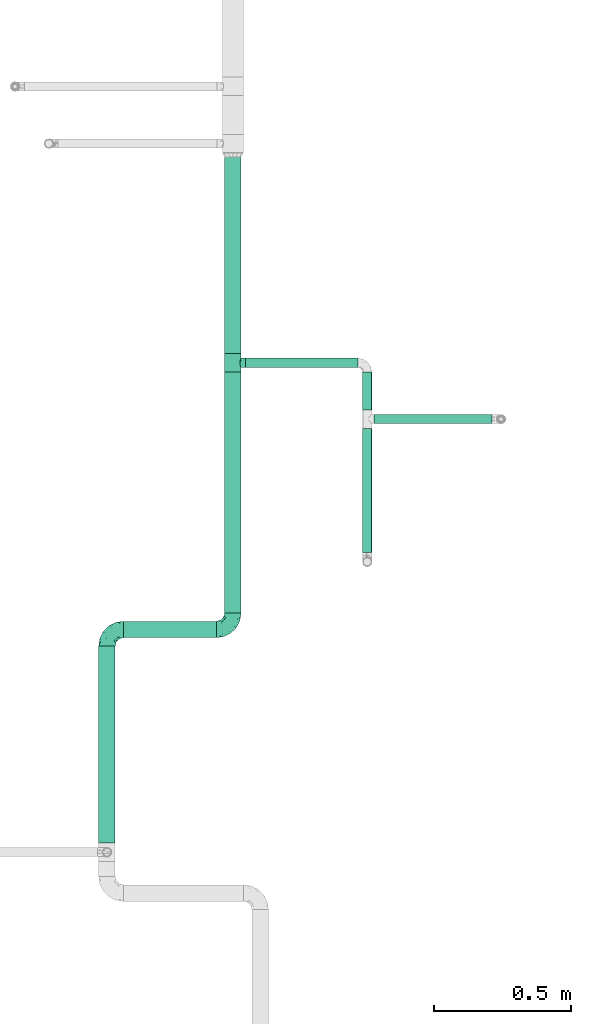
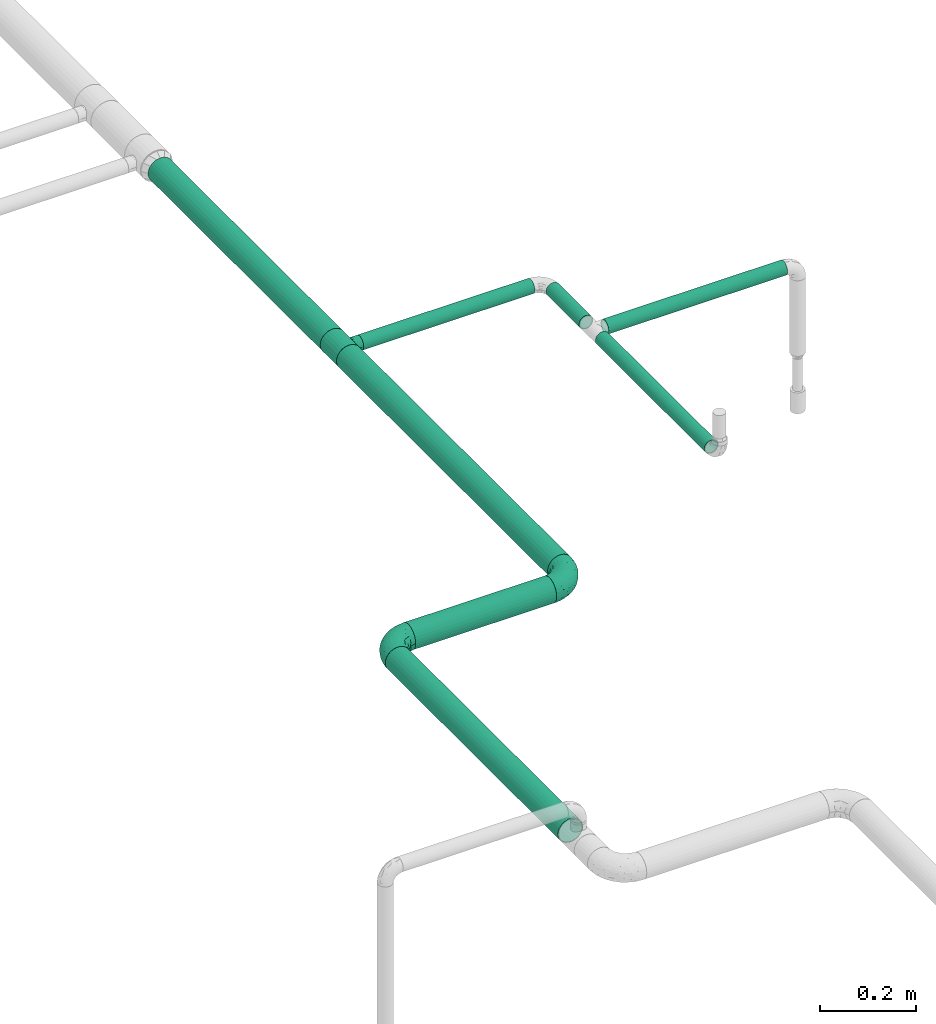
# One storey, part 6 of 43: 8 flow segments, 3 flow fittings.
"""IFC2X3 building model written with IfcOpenShell, lengths in millimetres."""

from ifc_helpers import new_model, entity, si_unit, converted_unit, derived_unit, direction, frame, origin_with_axes, origin_2d_with_axis, place, context, subcontext, project, spatial, hollow_circle, extrude, open_shell, surface_model, source, transform, mapped, type_object, element, save


model = new_model("IFC2X3")

# Units and contexts
model_context = context("Model", 3, precision=0.01, world=frame((0.0, 4.29681676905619e-09, 0.0)), true_north=direction((4.01073788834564e-13, 1.0)))
plan_context = context("Plan", 3, precision=0.01, world=frame((0.0, 4.29681676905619e-09, 0.0)), true_north=direction((4.01073788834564e-13, 1.0)))
body_context = subcontext(model_context, "Body", "Model", "MODEL_VIEW")
ifc_project = project(units=[converted_unit("PLANEANGLEUNIT", "DEGREE", entity("IfcPositiveLengthMeasure", 0.0174532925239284), si_unit("PLANEANGLEUNIT", "RADIAN"), dimensions=[0, 0, 0, 0, 0, 0, 0]), si_unit("AREAUNIT", "SQUARE_METRE"), si_unit("LENGTHUNIT", "METRE", prefix="MILLI"), si_unit("MASSUNIT", "GRAM", prefix="KILO"), si_unit("POWERUNIT", "WATT"), si_unit("PRESSUREUNIT", "PASCAL"), si_unit("FORCEUNIT", "NEWTON", prefix="KILO"), si_unit("ELECTRICVOLTAGEUNIT", "VOLT"), si_unit("ELECTRICCURRENTUNIT", "AMPERE"), si_unit("THERMODYNAMICTEMPERATUREUNIT", "DEGREE_CELSIUS"), si_unit("TIMEUNIT", "SECOND"), si_unit("VOLUMEUNIT", "CUBIC_METRE"), derived_unit("LINEARVELOCITYUNIT", [(si_unit("LENGTHUNIT", "METRE"), 1), (si_unit("TIMEUNIT", "SECOND"), -1)]), derived_unit("VOLUMETRICFLOWRATEUNIT", [(si_unit("VOLUMEUNIT", "CUBIC_METRE"), 1), (si_unit("TIMEUNIT", "SECOND"), -1)]), derived_unit("THERMALTRANSMITTANCEUNIT", [(si_unit("POWERUNIT", "WATT"), 1), (si_unit("THERMODYNAMICTEMPERATUREUNIT", "KELVIN"), -1), (si_unit("AREAUNIT", "SQUARE_METRE"), -1)]), derived_unit("SOUNDPRESSUREUNIT", [(si_unit("PRESSUREUNIT", "PASCAL"), 1)])], contexts=[model_context, plan_context])

# Site, building, storey
site_placement = place(None, frame((0.0, -4.29681676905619e-09, 0.0), z_axis=(0.0, 0.0, 1.0), x_axis=(1.0, 0.0, 0.0)))
site = spatial("IfcSite", under=ifc_project, at=site_placement, CompositionType="ELEMENT")
building_placement = place(site_placement, frame((0.0, 4.29681676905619e-09, 0.0), z_axis=(0.0, 0.0, 1.0), x_axis=(1.0, 0.0, 0.0)))
building = spatial("IfcBuilding", under=site, at=building_placement, Name="mc-building", CompositionType="ELEMENT")
storey_placement = place(building_placement, frame((0.0, 0.0, 210900.0), z_axis=(0.0, 0.0, 1.0), x_axis=(1.0, 0.0, 0.0)))
storey = spatial("IfcBuildingStorey", under=building, at=storey_placement, Name="Nivå F", CompositionType="ELEMENT", Elevation=210900.0)

# Flow fittings
pipe_fitting_type_1 = type_object("IfcPipeFittingType", Name="magi_pipe_fe_tee_centric_90_NOR", PredefinedType="JUNCTION")
shared_shape_1 = source(origin_with_axes(), body_context, "Body", "SurfaceModel", [
    surface_model("IfcShellBasedSurfaceModel", [(-33.8, 15.1, -26.15397), (-33.8, 7.81634, -29.17096), (-33.8, 0.0, -30.2), (-33.8, 29.17096, -7.81634), (-33.8, 26.15397, -15.1), (-33.8, 21.35462, -21.35462), (-33.8, 30.2, 0.0), (-33.8, -30.2, 0.0), (-33.8, -15.1, -26.15397), (-33.8, -21.35462, -21.35462), (-33.8, -7.81634, -29.17096), (-33.8, -26.15397, -15.1), (-33.8, -29.17096, -7.81634), (-33.8, 26.15397, 15.1), (-33.8, 29.17096, 7.81634), (-33.8, 15.1, 26.15397), (-33.8, -21.35462, 21.35462), (-33.8, 21.35462, 21.35462), (-33.8, 7.81634, 29.17096), (-33.8, -29.17096, 7.81634), (-33.8, -26.15397, 15.1), (-33.8, -7.81634, 29.17096), (-33.8, 0.0, 30.2), (-33.8, -15.1, 26.15397), (33.8, 29.17096, -7.81634), (33.8, 0.0, -30.2), (33.8, 7.81634, -29.17096), (33.8, 21.35462, -21.35462), (33.8, 15.1, -26.15397), (33.8, 26.15397, -15.1), (33.8, -30.2, 0.0), (33.8, -7.81634, -29.17096), (33.8, -21.35462, -21.35462), (33.8, -15.1, -26.15397), (33.8, -29.17096, -7.81634), (33.8, -26.15397, -15.1), (33.8, 30.2, 0.0), (33.8, 29.17096, 7.81634), (33.8, 26.15397, 15.1), (33.8, -29.17096, 7.81634), (33.8, 15.1, 26.15397), (33.8, 7.81634, 29.17096), (33.8, 21.35462, 21.35462), (33.8, -21.35462, 21.35462), (33.8, -26.15397, 15.1), (33.8, -15.1, 26.15397), (33.8, 0.0, 30.2), (33.8, -7.81634, 29.17096), (33.8, -29.68548, 3.90817), (15.846, -29.62306, 5.87488), (16.373, -29.91153, 2.93744), (12.91037, -28.16217, 10.90561), (2.99213, -25.2068, 16.63301), (16.9, -30.2, 0.0), (33.8, -27.66246, 11.45817), (8.50854, -26.43531, 14.60187), (-8.51006, -26.43579, 14.60099), (-33.8, -27.66246, 11.45817), (-12.91447, -28.16405, 10.90075), (-15.84655, -29.62335, 5.87341), (-33.8, -29.68548, 3.90817), (-16.37327, -29.91168, 2.93671), (-16.9, -30.2, 0.0), (-2.99705, -25.20739, 16.63213), (2.99213, -25.2068, -16.63301), (-16.37327, -29.91168, -2.93671), (8.50854, -26.43531, -14.60187), (33.8, -27.66246, -11.45817), (16.373, -29.91153, -2.93744), (-33.8, -29.68548, -3.90817), (-15.84655, -29.62335, -5.87341), (15.846, -29.62306, -5.87488), (12.91037, -28.16217, -10.90561), (33.8, -29.68548, -3.90817), (-2.99705, -25.20739, -16.63213), (-8.51006, -26.43579, -14.60099), (-12.91447, -28.16405, -10.90075), (-33.8, -27.66246, -11.45817), (4.37404, -45.3, -16.32415), (-16.9, -45.3, 0.0), (0.0, -45.3, -16.9), (14.63583, -45.3, -8.45), (8.45, -45.3, -14.63583), (16.32415, -45.3, -4.37404), (11.9501, -45.3, -11.9501), (-11.9501, -45.3, -11.9501), (-8.45, -45.3, -14.63583), (-4.37404, -45.3, -16.32415), (-14.63583, -45.3, -8.45), (-16.32415, -45.3, -4.37404), (16.9, -45.3, 0.0), (8.45, -45.3, 14.63583), (16.32415, -45.3, 4.37404), (14.63583, -45.3, 8.45), (-8.45, -45.3, 14.63583), (11.9501, -45.3, 11.9501), (4.37404, -45.3, 16.32415), (-16.32415, -45.3, 4.37404), (-11.9501, -45.3, 11.9501), (-14.63583, -45.3, 8.45), (0.0, -45.3, 16.9), (-4.37404, -45.3, 16.32415), (-5.75355, -25.82159, 15.61656), (-0.00246, -25.20709, 16.63257), (5.75034, -25.82105, 15.61744), (5.75034, -25.82105, -15.61744), (-0.00246, -25.20709, -16.63257), (-5.75355, -25.82159, -15.61656)], [open_shell([[[0, 1, 2]], [[3, 0, 2]], [[0, 3, 4]], [[5, 0, 4]], [[6, 2, 7]], [[8, 9, 10]], [[9, 2, 10]], [[11, 12, 9]], [[7, 9, 12]], [[9, 7, 2]], [[6, 3, 2]], [[13, 14, 6]], [[7, 15, 13]], [[7, 16, 15]], [[17, 13, 15]], [[18, 15, 16]], [[19, 20, 7]], [[7, 20, 16]], [[21, 22, 23]], [[16, 23, 22]], [[16, 22, 18]], [[7, 13, 6]], [[24, 25, 26]], [[27, 26, 28]], [[29, 24, 26]], [[29, 26, 27]], [[25, 24, 30]], [[31, 32, 33]], [[32, 31, 34]], [[32, 34, 35]], [[34, 31, 30]], [[31, 25, 30]], [[24, 36, 30]], [[36, 37, 38]], [[39, 36, 38]], [[40, 41, 38]], [[40, 38, 42]], [[43, 38, 41]], [[39, 43, 44]], [[39, 38, 43]], [[45, 46, 47]], [[46, 45, 43]], [[41, 46, 43]], [[36, 39, 30]], [[48, 39, 49]], [[30, 48, 50]], [[39, 51, 49]], [[44, 43, 52]], [[30, 50, 53]], [[51, 54, 55]], [[52, 55, 44]], [[48, 49, 50]], [[43, 16, 52]], [[55, 54, 44]], [[56, 57, 58]], [[59, 60, 61]], [[62, 61, 7]], [[59, 58, 19]], [[56, 63, 20]], [[51, 39, 54]], [[20, 57, 56]], [[20, 63, 16]], [[58, 57, 19]], [[63, 52, 16]], [[7, 61, 60]], [[59, 19, 60]], [[43, 23, 16]], [[22, 47, 46]], [[21, 45, 47]], [[18, 46, 41]], [[38, 37, 14]], [[17, 40, 42]], [[13, 42, 38]], [[41, 40, 15]], [[6, 37, 36]], [[23, 45, 21]], [[21, 47, 22]], [[18, 22, 46]], [[41, 15, 18]], [[15, 40, 17]], [[13, 17, 42]], [[14, 13, 38]], [[37, 6, 14]], [[45, 23, 43]], [[4, 24, 29]], [[3, 36, 24]], [[5, 29, 27]], [[25, 31, 10]], [[1, 28, 26]], [[2, 26, 25]], [[27, 28, 0]], [[8, 31, 33]], [[6, 36, 3]], [[3, 24, 4]], [[5, 4, 29]], [[27, 0, 5]], [[0, 28, 1]], [[2, 1, 26]], [[10, 2, 25]], [[31, 8, 10]], [[33, 9, 8]], [[32, 35, 64]], [[7, 65, 62]], [[66, 64, 35]], [[67, 66, 35]], [[32, 64, 9]], [[53, 68, 30]], [[69, 70, 65]], [[71, 72, 34]], [[71, 73, 68]], [[66, 67, 72]], [[34, 72, 67]], [[74, 75, 11]], [[76, 12, 77]], [[11, 9, 74]], [[76, 77, 75]], [[74, 9, 64]], [[76, 70, 12]], [[71, 34, 73]], [[70, 69, 12]], [[65, 7, 69]], [[30, 68, 73]], [[77, 11, 75]], [[32, 9, 33]], [[78, 79, 80]], [[81, 78, 82]], [[81, 83, 78]], [[81, 82, 84]], [[79, 78, 83]], [[80, 85, 86]], [[86, 87, 80]], [[88, 79, 89]], [[85, 80, 88]], [[79, 88, 80]], [[83, 90, 79]], [[91, 90, 92]], [[91, 92, 93]], [[94, 79, 91]], [[91, 93, 95]], [[94, 91, 96]], [[97, 98, 99]], [[98, 97, 94]], [[94, 100, 101]], [[97, 79, 94]], [[96, 100, 94]], [[91, 79, 90]], [[97, 61, 79]], [[58, 99, 98]], [[97, 99, 59]], [[98, 94, 56]], [[61, 62, 79]], [[59, 99, 58]], [[101, 63, 102]], [[56, 58, 98]], [[100, 52, 103]], [[91, 104, 96]], [[100, 96, 52]], [[50, 49, 92]], [[50, 90, 53]], [[104, 91, 55]], [[102, 94, 101]], [[102, 56, 94]], [[100, 63, 101]], [[97, 59, 61]], [[55, 91, 95]], [[95, 51, 55]], [[52, 96, 104]], [[92, 49, 93]], [[90, 50, 92]], [[93, 49, 51]], [[93, 51, 95]], [[103, 63, 100]], [[83, 68, 90]], [[72, 81, 84]], [[83, 81, 71]], [[84, 82, 66]], [[68, 53, 90]], [[71, 81, 72]], [[78, 64, 105]], [[66, 72, 84]], [[80, 74, 106]], [[86, 107, 87]], [[65, 70, 89]], [[105, 82, 78]], [[105, 66, 82]], [[75, 86, 85]], [[83, 71, 68]], [[70, 88, 89]], [[65, 79, 62]], [[85, 88, 76]], [[80, 64, 78]], [[87, 107, 74]], [[74, 80, 87]], [[75, 107, 86]], [[75, 85, 76]], [[76, 88, 70]], [[79, 65, 89]], [[106, 64, 80]]])]),
])
flow_fitting_placement = place(storey_placement, frame((607779.57252, 695024.21468, 2660.0), z_axis=(0.0, 0.0, 1.0), x_axis=(0.0, 1.0, 0.0)))
element("IfcFlowFitting", 1, at=flow_fitting_placement, inside=storey, type_object=pipe_fitting_type_1, Name="magi_pipe_fe_tee_centric_90_NOR", context=body_context, shape_type="MappedRepresentation", body=[
    mapped(shared_shape_1, transform((0.0, 0.0, 0.0), scale=1.0)),
])
pipe_fitting_type_2 = type_object("IfcPipeFittingType", Name="magi_pipe_fe_elbow_short_001", PredefinedType="BEND")
shared_shape_2 = source(origin_with_axes(), body_context, "Body", "SurfaceModel", [
    surface_model("IfcShellBasedSurfaceModel", [(-60.4, 15.1, -26.15397), (-60.4, 7.81634, -29.17096), (-60.4, 0.0, -30.2), (-60.4, -21.35462, -21.35462), (-60.4, 26.15397, -15.1), (-60.4, 21.35462, -21.35462), (-60.4, 29.17096, -7.81634), (-60.4, -15.1, -26.15397), (-60.4, -7.81634, -29.17096), (-60.4, -26.15397, -15.1), (-60.4, -29.17096, -7.81634), (-60.4, -30.2, 0.0), (-60.4, -29.17096, 7.81634), (-60.4, 29.17096, 7.81634), (-60.4, -21.35462, 21.35462), (-60.4, 26.15397, 15.1), (-60.4, 21.35462, 21.35462), (-60.4, 7.81634, 29.17096), (-60.4, 15.1, 26.15397), (-60.4, -26.15397, 15.1), (-60.4, -7.81634, 29.17096), (-60.4, 0.0, 30.2), (-60.4, -15.1, 26.15397), (-60.4, 30.2, 0.0), (0.0, 60.4, -30.2), (-7.81634, 60.4, -29.17096), (-15.1, 60.4, -26.15397), (-26.15397, 60.4, -15.1), (-29.17096, 60.4, -7.81634), (-21.35462, 60.4, -21.35462), (29.17096, 60.4, -7.81634), (7.81634, 60.4, -29.17096), (21.35462, 60.4, -21.35462), (15.1, 60.4, -26.15397), (26.15397, 60.4, -15.1), (29.17096, 60.4, 7.81634), (30.2, 60.4, 0.0), (-29.17096, 60.4, 7.81634), (21.35462, 60.4, 21.35462), (-21.35462, 60.4, 21.35462), (-26.15397, 60.4, 15.1), (-15.1, 60.4, 26.15397), (-7.81634, 60.4, 29.17096), (26.15397, 60.4, 15.1), (15.1, 60.4, 26.15397), (0.0, 60.4, 30.2), (7.81634, 60.4, 29.17096), (-30.2, 60.4, 0.0), (-40.79975, -26.48639, 9.49143), (-44.2927, -23.46036, 16.95222), (-32.40306, -25.76572, 0.0), (-45.54716, -27.84754, 0.0), (-7.73382, -10.42985, 11.64553), (-2.102, -8.06735, 6.35117), (1.74449, -1.74448, 12.51332), (-46.13593, -4.00068, 29.68351), (-42.2898, 4.62925, 30.14853), (10.31662, 7.37496, 11.34434), (18.44156, 24.57514, 15.02148), (7.07276, 10.95732, 19.27498), (-30.06693, -0.27102, 29.27145), (-44.17726, -11.39441, 27.16031), (-23.4551, -7.13383, 25.24246), (-38.74025, -17.25266, 22.43475), (-27.059, -23.14697, 6.2131), (-19.77486, -19.33133, 0.0), (-10.95732, -7.07276, 19.27498), (-5.39458, 5.39458, 24.69106), (-29.52069, 48.20084, 13.12597), (-25.22813, 47.01796, 19.8404), (-11.27311, 52.093, 28.2877), (-4.13904, 45.17494, 30.12582), (-46.55352, 11.8443, 28.52822), (-7.88305, 20.22717, 29.65331), (-15.00576, 5.54025, 28.20072), (-3.0852, 16.31623, 27.75343), (-52.24998, 18.2886, 24.60768), (-10.49591, 29.69865, 30.14582), (-22.36958, 22.36958, 29.4662), (-17.98262, 13.19715, 30.04443), (-47.74519, 32.16745, 6.63994), (-48.21585, 29.51581, 13.12396), (-37.49729, 37.49729, 11.28901), (-47.20967, 25.1754, 19.81929), (17.25266, 38.74025, 22.43475), (-31.32046, 40.03273, 17.09289), (11.39441, 44.17725, 27.16031), (23.46036, 44.2927, 16.95222), (26.48639, 40.79975, 9.49143), (-7.14666, -12.89694, 0.0), (-14.66463, -16.61192, 7.82462), (4.00068, 46.13593, 29.68351), (-33.18602, 12.93608, 29.65955), (-29.63414, 7.40029, 30.18711), (19.33133, 19.77486, 0.0), (23.14697, 27.059, 6.2131), (16.61192, 14.66463, 7.82462), (27.84754, 45.54716, 0.0), (-32.10611, 20.49149, 27.93323), (-24.57514, -18.44156, 15.02148), (-21.89487, 39.03366, 25.38224), (-18.45005, 50.6405, 24.73297), (-31.78933, 48.71949, 6.47886), (-37.84917, 39.61073, 5.315), (13.91334, 24.32737, 20.46816), (7.13383, 23.4551, 25.24246), (-34.24603, 45.3, 0.0), (-27.95749, 31.89166, 24.81537), (-41.58677, 20.50028, 25.43151), (-0.46157, 0.46157, 17.84239), (-17.23338, 31.26213, 29.03145), (-24.05994, 29.23812, 27.47858), (-13.06094, 40.92174, 28.76128), (-31.83392, 33.72702, 21.39203), (-38.78737, 32.45032, 16.84022), (0.27102, 30.06693, 29.27145), (-24.21469, -13.23741, 21.05734), (8.23548, 2.19333, 6.02161), (25.76572, 32.40306, 0.0), (12.89694, 7.14666, 0.0), (-45.3, 34.24603, 0.0), (2.87514, -2.87514, 0.0), (-44.53432, 26.00869, -20.11577), (-48.18822, 29.5248, -13.12766), (-24.67192, -7.62159, -25.33714), (-26.22398, -0.37671, -28.72374), (-12.13397, -0.50536, -24.74577), (-47.80891, 3.81859, -30.10171), (-44.05719, -27.03585, -9.84546), (-37.94552, -22.39569, -16.35738), (-28.81663, -22.64668, -10.132), (-43.93799, 12.32789, -28.63778), (-33.27, 7.1392, -30.19348), (-26.0087, 44.53432, -20.11577), (-48.89164, 31.68872, -6.60822), (-18.95522, 47.41145, -24.9828), (-12.32789, 43.93799, -28.63778), (-38.42778, 38.42778, -7.21049), (18.04263, 43.69152, -22.80146), (10.42233, 38.24532, -26.85918), (11.90576, 51.00473, -27.48545), (-5.88381, -10.62327, -7.95335), (-5.9694, -7.83116, -13.76182), (3.24899, -2.56331, -7.96861), (-17.62229, 16.32998, -30.18286), (-28.62959, 17.86952, -29.30113), (-47.41145, 18.95522, -24.98279), (-50.84455, -24.04089, -17.54629), (-29.38053, 34.30665, -22.74674), (-27.91099, 27.91099, -26.51666), (-36.91219, 25.51094, -23.99233), (2.63361, -0.55507, -12.94367), (-43.69152, -18.04263, -22.80146), (22.39569, 37.94552, -16.35738), (27.03585, 44.05719, -9.84546), (22.64668, 28.81663, -10.132), (-51.00473, -11.90576, -27.48545), (3.80785, 44.49426, -29.64782), (-19.0921, -14.69952, -16.47487), (-22.5489, -12.31934, -21.1263), (-10.94772, -7.46239, -18.88204), (-32.95885, -13.78948, -23.71249), (-38.24532, -10.42233, -26.85918), (-44.49427, -3.80785, -29.64782), (-22.6301, 37.15314, -25.58239), (-31.68872, 48.89164, -6.60822), (-3.8186, 47.80891, -30.10171), (-10.66133, 10.66133, -28.51691), (0.37671, 26.22398, -28.72374), (1.27136, 14.18619, -25.18541), (-29.5248, 48.18821, -13.12766), (-36.27113, 36.27113, -14.88553), (24.04089, 50.84455, -17.54629), (17.50188, 24.2636, -16.21902), (9.73525, 11.44907, -16.75087), (12.31934, 22.5489, -21.1263), (6.24176, 25.78208, -26.38266), (-7.1392, 33.27, -30.19348), (-36.7166, 19.4356, -27.21946), (-18.00754, 29.38864, -29.15505), (-0.28629, 0.28629, -17.49884), (-13.98848, -16.88492, -5.19509), (15.48569, 15.00432, -11.24742), (16.88492, 13.98848, -5.19509), (3.55782, 9.20508, -21.18402), (-15.00432, -15.48569, -11.24742)], [open_shell([[[0, 1, 2]], [[0, 2, 3]], [[4, 0, 3]], [[5, 0, 4]], [[6, 4, 3]], [[7, 3, 8]], [[3, 2, 8]], [[9, 10, 3]], [[3, 10, 6]], [[11, 12, 10]], [[13, 6, 10]], [[13, 10, 14]], [[15, 13, 16]], [[17, 18, 16]], [[13, 17, 16]], [[17, 13, 14]], [[19, 14, 12]], [[12, 14, 10]], [[20, 21, 22]], [[17, 14, 22]], [[17, 22, 21]], [[13, 23, 6]], [[24, 25, 26]], [[24, 26, 27]], [[27, 28, 24]], [[27, 26, 29]], [[24, 28, 30]], [[31, 32, 33]], [[31, 24, 32]], [[32, 30, 34]], [[24, 30, 32]], [[30, 35, 36]], [[30, 28, 37]], [[38, 30, 37]], [[39, 37, 40]], [[39, 41, 42]], [[39, 42, 37]], [[38, 37, 42]], [[35, 38, 43]], [[30, 38, 35]], [[44, 45, 46]], [[44, 38, 42]], [[45, 44, 42]], [[28, 47, 37]], [[48, 49, 19]], [[50, 48, 51]], [[52, 53, 54]], [[12, 48, 19]], [[12, 51, 48]], [[21, 55, 56]], [[19, 49, 14]], [[57, 58, 59]], [[60, 61, 62]], [[63, 22, 14]], [[63, 61, 22]], [[64, 50, 65]], [[62, 66, 67]], [[40, 68, 69]], [[42, 70, 71]], [[17, 72, 18]], [[73, 74, 75]], [[18, 76, 16]], [[20, 55, 21]], [[77, 78, 79]], [[80, 81, 82]], [[15, 83, 81]], [[84, 38, 44]], [[23, 13, 80]], [[13, 15, 81]], [[68, 85, 69]], [[83, 15, 16]], [[21, 56, 17]], [[44, 86, 84]], [[16, 76, 83]], [[87, 58, 88]], [[40, 37, 68]], [[89, 90, 65]], [[45, 91, 46]], [[65, 90, 64]], [[45, 42, 71]], [[92, 93, 79]], [[88, 35, 43]], [[43, 38, 87]], [[87, 88, 43]], [[94, 95, 96]], [[88, 97, 35]], [[98, 72, 92]], [[49, 99, 63]], [[69, 100, 101]], [[82, 102, 103]], [[104, 105, 59]], [[106, 102, 47]], [[98, 107, 108]], [[102, 82, 68]], [[86, 44, 46]], [[69, 39, 40]], [[109, 54, 57]], [[110, 100, 111]], [[22, 61, 20]], [[101, 41, 39]], [[70, 42, 41]], [[112, 77, 71]], [[84, 86, 105]], [[96, 95, 58]], [[100, 69, 113]], [[72, 17, 56]], [[108, 113, 83]], [[81, 114, 82]], [[112, 110, 77]], [[91, 71, 115]], [[62, 61, 63]], [[55, 61, 60]], [[116, 99, 66]], [[74, 62, 67]], [[91, 86, 46]], [[105, 86, 115]], [[75, 105, 115]], [[109, 67, 66]], [[59, 105, 67]], [[48, 64, 99]], [[99, 49, 48]], [[63, 14, 49]], [[38, 84, 87]], [[58, 87, 84]], [[92, 72, 56]], [[76, 72, 108]], [[102, 68, 37]], [[82, 114, 85]], [[98, 111, 107]], [[112, 70, 101]], [[114, 83, 113]], [[82, 103, 80]], [[92, 79, 78]], [[115, 71, 77]], [[74, 79, 60]], [[77, 79, 73]], [[71, 91, 45]], [[86, 91, 115]], [[61, 55, 20]], [[56, 55, 60]], [[57, 54, 117]], [[104, 59, 58]], [[116, 66, 62]], [[52, 99, 90]], [[12, 11, 51]], [[97, 88, 118]], [[97, 36, 35]], [[53, 90, 89]], [[90, 53, 52]], [[94, 96, 119]], [[88, 95, 118]], [[117, 54, 53]], [[92, 56, 93]], [[98, 92, 78]], [[111, 98, 78]], [[72, 98, 108]], [[110, 111, 78]], [[107, 111, 100]], [[47, 102, 37]], [[102, 106, 103]], [[106, 120, 103]], [[103, 120, 80]], [[23, 80, 120]], [[13, 81, 80]], [[56, 60, 93]], [[60, 79, 93]], [[117, 121, 119]], [[121, 117, 53]], [[53, 89, 121]], [[119, 96, 117]], [[117, 96, 57]], [[77, 110, 78]], [[100, 110, 112]], [[83, 114, 81]], [[85, 114, 113]], [[69, 85, 113]], [[82, 85, 68]], [[109, 52, 54]], [[99, 52, 66]], [[69, 101, 39]], [[112, 101, 100]], [[100, 113, 107]], [[108, 107, 113]], [[62, 74, 60]], [[75, 74, 67]], [[105, 75, 67]], [[73, 75, 115]], [[77, 73, 115]], [[74, 73, 79]], [[99, 64, 90]], [[50, 64, 48]], [[118, 95, 94]], [[58, 95, 88]], [[58, 57, 96]], [[109, 57, 59]], [[72, 76, 18]], [[83, 76, 108]], [[101, 70, 41]], [[71, 70, 112]], [[58, 84, 104]], [[105, 104, 84]], [[67, 109, 59]], [[52, 109, 66]], [[62, 63, 116]], [[99, 116, 63]], [[122, 4, 123]], [[124, 125, 126]], [[2, 1, 127]], [[128, 129, 130]], [[127, 131, 132]], [[27, 29, 133]], [[120, 134, 23]], [[135, 26, 136]], [[123, 134, 137]], [[138, 139, 140]], [[122, 5, 4]], [[141, 142, 143]], [[144, 132, 145]], [[131, 0, 146]], [[128, 9, 147]], [[148, 149, 150]], [[128, 51, 10]], [[142, 151, 143]], [[152, 3, 7]], [[153, 154, 155]], [[156, 152, 7]], [[31, 157, 24]], [[158, 159, 160]], [[147, 9, 3]], [[129, 152, 161]], [[156, 7, 8]], [[162, 163, 125]], [[154, 34, 30]], [[120, 106, 137]], [[149, 148, 164]], [[47, 28, 165]], [[163, 8, 2]], [[4, 6, 123]], [[25, 166, 136]], [[167, 168, 169]], [[170, 133, 171]], [[25, 24, 166]], [[33, 32, 138]], [[157, 31, 140]], [[28, 27, 170]], [[32, 34, 172]], [[26, 135, 29]], [[132, 131, 145]], [[31, 33, 140]], [[173, 174, 175]], [[169, 168, 176]], [[25, 136, 26]], [[175, 138, 173]], [[168, 177, 157]], [[163, 162, 156]], [[153, 172, 154]], [[9, 128, 10]], [[154, 97, 118]], [[131, 178, 145]], [[0, 5, 146]], [[175, 139, 138]], [[155, 118, 94]], [[131, 1, 0]], [[146, 178, 131]], [[170, 137, 165]], [[149, 179, 145]], [[171, 133, 148]], [[160, 180, 142]], [[65, 181, 89]], [[170, 165, 28]], [[137, 171, 123]], [[172, 138, 32]], [[138, 153, 173]], [[168, 157, 139]], [[166, 157, 177]], [[176, 175, 169]], [[168, 167, 144]], [[154, 30, 97]], [[155, 182, 173]], [[162, 124, 161]], [[147, 152, 129]], [[127, 163, 2]], [[132, 144, 125]], [[132, 125, 163]], [[125, 167, 126]], [[129, 158, 130]], [[30, 36, 97]], [[143, 182, 183]], [[169, 126, 167]], [[5, 122, 146]], [[178, 150, 149]], [[136, 179, 164]], [[133, 29, 135]], [[123, 6, 134]], [[122, 123, 171]], [[133, 170, 27]], [[137, 170, 171]], [[184, 175, 174]], [[180, 160, 126]], [[126, 169, 184]], [[126, 159, 124]], [[51, 128, 50]], [[51, 11, 10]], [[131, 127, 1]], [[163, 127, 132]], [[157, 166, 24]], [[136, 166, 177]], [[164, 179, 149]], [[144, 167, 125]], [[179, 144, 145]], [[168, 144, 177]], [[136, 177, 179]], [[144, 179, 177]], [[141, 121, 89]], [[89, 181, 141]], [[154, 118, 155]], [[183, 155, 94]], [[143, 183, 119]], [[119, 183, 94]], [[155, 183, 182]], [[181, 130, 185]], [[50, 128, 130]], [[130, 181, 65]], [[50, 130, 65]], [[141, 181, 185]], [[142, 141, 185]], [[143, 121, 141]], [[158, 160, 142]], [[142, 180, 151]], [[158, 142, 185]], [[126, 160, 159]], [[130, 158, 185]], [[129, 159, 158]], [[23, 134, 6]], [[120, 137, 134]], [[137, 106, 165]], [[47, 165, 106]], [[174, 151, 180]], [[182, 143, 151]], [[150, 146, 122]], [[149, 145, 178]], [[146, 150, 178]], [[122, 171, 148]], [[148, 150, 122]], [[164, 133, 135]], [[133, 164, 148]], [[164, 135, 136]], [[138, 140, 33]], [[157, 140, 139]], [[154, 172, 34]], [[138, 172, 153]], [[163, 156, 8]], [[152, 156, 162]], [[152, 147, 3]], [[128, 147, 129]], [[155, 173, 153]], [[174, 173, 182]], [[151, 174, 182]], [[174, 180, 184]], [[126, 184, 180]], [[175, 184, 169]], [[168, 139, 176]], [[175, 176, 139]], [[161, 124, 159]], [[125, 124, 162]], [[129, 161, 159]], [[162, 161, 152]], [[143, 119, 121]]])]),
])
for number, where, z_axis, x_axis, name in (
    (2, (607779.57252, 694050.41468, 2660.0), (0.0, 0.0, 1.0), (1.0, 0.0, 0.0), "magi_pipe_fe_elbow_short_001"),
    (3, (607319.57252, 694050.41468, 2660.0), (0.0, 0.0, 1.0), (-1.0, 0.0, 0.0), "magi_pipe_fe_elbow_short_001"),
):
    element("IfcFlowFitting", number, at=place(storey_placement, frame(where, z_axis=z_axis, x_axis=x_axis)), inside=storey, type_object=pipe_fitting_type_2, Name=name, context=body_context, shape_type="MappedRepresentation", body=[
        mapped(shared_shape_2, transform((0.0, 0.0, 0.0), scale=1.0)),
    ])

# Flow segments
pipe_segment_type = type_object("IfcPipeSegmentType", Name="Stålrør normaltykke", PredefinedType="RIGIDSEGMENT")
shared_shape_3 = source(origin_with_axes(), body_context, "Body", "SweptSolid", [
    extrude(hollow_circle(Radius=16.9, WallThickness=2.0, at=origin_2d_with_axis()), frame((0.0, 0.0, 0.0), z_axis=(1.0, 0.0, 0.0), x_axis=(0.0, 1.0, 0.0)), (0.0, 0.0, 1.0), 138.3),
])
flow_segment_1_placement = place(storey_placement, frame((608270.34731, 694852.66468, 2660.0), z_axis=(0.0, 0.0, 1.0), x_axis=(0.0, 1.0, 0.0)))
element("IfcFlowSegment", 4, at=flow_segment_1_placement, inside=storey, type_object=pipe_segment_type, Name="Stålrør normaltykke", context=body_context, shape_type="MappedRepresentation", body=[
    mapped(shared_shape_3, transform((0.0, 0.0, 0.0), scale=1.0)),
])
shared_shape_4 = source(origin_with_axes(), body_context, "Body", "SweptSolid", [
    extrude(hollow_circle(Radius=16.9, WallThickness=2.0, at=origin_2d_with_axis()), frame((0.0, 0.0, 0.0), z_axis=(1.0, 0.0, 0.0), x_axis=(0.0, 1.0, 0.0)), (0.0, 0.0, 1.0), 430.1),
])
flow_segment_2_placement = place(storey_placement, frame((608295.69731, 694818.86468, 2660.0), z_axis=(0.0, 0.0, 1.0), x_axis=(1.0, 0.0, 0.0)))
element("IfcFlowSegment", 5, at=flow_segment_2_placement, inside=storey, type_object=pipe_segment_type, Name="Stålrør normaltykke", context=body_context, shape_type="MappedRepresentation", body=[
    mapped(shared_shape_4, transform((0.0, 0.0, 0.0), scale=1.0)),
])
shared_shape_5 = source(origin_with_axes(), body_context, "Body", "SweptSolid", [
    extrude(hollow_circle(Radius=30.1, WallThickness=2.0, at=origin_2d_with_axis()), frame((0.0, 0.0, 0.0), z_axis=(1.0, 0.0, 0.0), x_axis=(0.0, 1.0, 0.0)), (0.0, 0.0, 1.0), 717.6),
])
flow_segment_3_placement = place(storey_placement, frame((607779.57252, 695775.62914, 2660.0), z_axis=(0.0, 0.0, 1.0), x_axis=(0.0, -1.0, 0.0)))
element("IfcFlowSegment", 6, at=flow_segment_3_placement, inside=storey, type_object=pipe_segment_type, Name="Stålrør normaltykke", context=body_context, shape_type="MappedRepresentation", body=[
    mapped(shared_shape_5, transform((0.0, 0.0, 0.0), scale=1.0)),
])
shared_shape_6 = source(origin_with_axes(), body_context, "Body", "SweptSolid", [
    extrude(hollow_circle(Radius=16.9, WallThickness=2.0, at=origin_2d_with_axis()), frame((0.0, 0.0, 0.0), z_axis=(1.0, 0.0, 0.0), x_axis=(0.0, 1.0, 0.0)), (0.0, 0.0, 1.0), 454.2),
])
flow_segment_4_placement = place(storey_placement, frame((608270.34731, 694330.83566, 2660.0), z_axis=(0.0, 0.0, 1.0), x_axis=(0.0, 1.0, 0.0)))
element("IfcFlowSegment", 7, at=flow_segment_4_placement, inside=storey, type_object=pipe_segment_type, Name="Stålrør normaltykke", context=body_context, shape_type="MappedRepresentation", body=[
    mapped(shared_shape_6, transform((0.0, 0.0, 0.0), scale=1.0)),
])
shared_shape_7 = source(origin_with_axes(), body_context, "Body", "SweptSolid", [
    extrude(hollow_circle(Radius=16.9, WallThickness=2.0, at=origin_2d_with_axis()), frame((0.0, 0.0, 0.0), z_axis=(1.0, 0.0, 0.0), x_axis=(0.0, 1.0, 0.0)), (0.0, 0.0, 1.0), 411.7),
])
flow_segment_5_placement = place(storey_placement, frame((607824.87252, 695024.21468, 2660.0), z_axis=(0.0, 0.0, 1.0), x_axis=(1.0, 0.0, 0.0)))
element("IfcFlowSegment", 8, at=flow_segment_5_placement, inside=storey, type_object=pipe_segment_type, Name="Stålrør normaltykke", context=body_context, shape_type="MappedRepresentation", body=[
    mapped(shared_shape_7, transform((0.0, 0.0, 0.0), scale=1.0)),
])
shared_shape_8 = source(origin_with_axes(), body_context, "Body", "SweptSolid", [
    extrude(hollow_circle(Radius=30.1, WallThickness=2.0, at=origin_2d_with_axis()), frame((0.0, 0.0, 0.0), z_axis=(1.0, 0.0, 0.0), x_axis=(0.0, 1.0, 0.0)), (0.0, 0.0, 1.0), 879.6),
])
flow_segment_6_placement = place(storey_placement, frame((607779.57252, 694990.41468, 2660.0), z_axis=(0.0, 0.0, 1.0), x_axis=(0.0, -1.0, 0.0)))
element("IfcFlowSegment", 9, at=flow_segment_6_placement, inside=storey, type_object=pipe_segment_type, Name="Stålrør normaltykke", context=body_context, shape_type="MappedRepresentation", body=[
    mapped(shared_shape_8, transform((0.0, 0.0, 0.0), scale=1.0)),
])
shared_shape_9 = source(origin_with_axes(), body_context, "Body", "SweptSolid", [
    extrude(hollow_circle(Radius=30.1, WallThickness=2.0, at=origin_2d_with_axis()), frame((0.0, 0.0, 0.0), z_axis=(1.0, 0.0, 0.0), x_axis=(0.0, 1.0, 0.0)), (0.0, 0.0, 1.0), 718.9),
])
flow_segment_7_placement = place(storey_placement, frame((607319.57252, 693271.11902, 2660.0), z_axis=(0.0, 0.0, 1.0), x_axis=(0.0, 1.0, 0.0)))
element("IfcFlowSegment", 10, at=flow_segment_7_placement, inside=storey, type_object=pipe_segment_type, Name="Stålrør normaltykke", context=body_context, shape_type="MappedRepresentation", body=[
    mapped(shared_shape_9, transform((0.0, 0.0, 0.0), scale=1.0)),
])
shared_shape_10 = source(origin_with_axes(), body_context, "Body", "SweptSolid", [
    extrude(hollow_circle(Radius=30.1, WallThickness=2.0, at=origin_2d_with_axis()), frame((0.0, 0.0, 0.0), z_axis=(1.0, 0.0, 0.0), x_axis=(0.0, 1.0, 0.0)), (0.0, 0.0, 1.0), 339.2),
])
flow_segment_8_placement = place(storey_placement, frame((607719.17252, 694050.41468, 2660.0), z_axis=(0.0, 0.0, 1.0), x_axis=(-1.0, 0.0, 0.0)))
element("IfcFlowSegment", 11, at=flow_segment_8_placement, inside=storey, type_object=pipe_segment_type, Name="Stålrør normaltykke", context=body_context, shape_type="MappedRepresentation", body=[
    mapped(shared_shape_10, transform((0.0, 0.0, 0.0), scale=1.0)),
])

save(model, "model.ifc")
